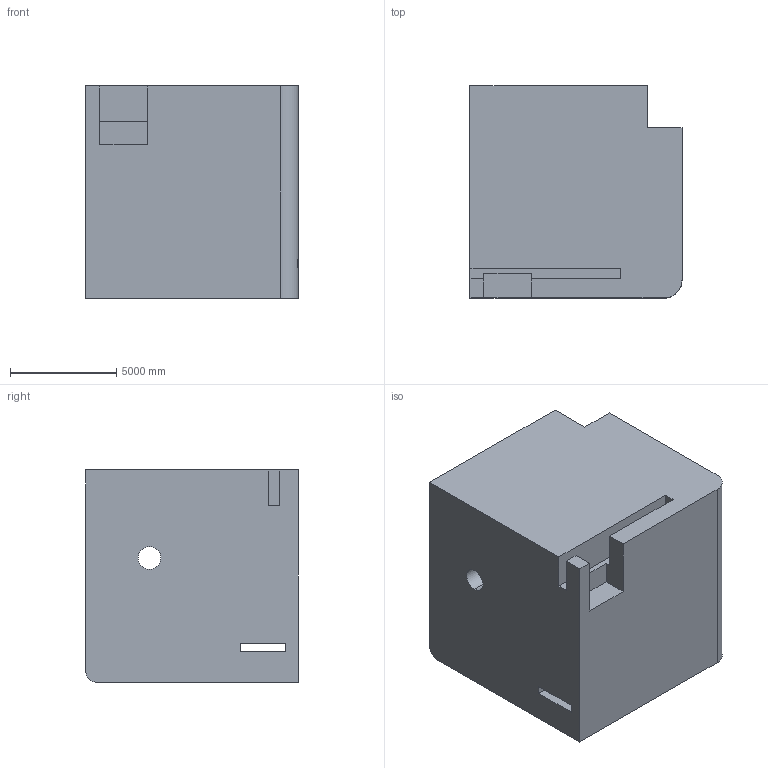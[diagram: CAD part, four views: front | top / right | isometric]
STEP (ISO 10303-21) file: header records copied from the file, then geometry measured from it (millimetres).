
FILE_DESCRIPTION (( 'STEP AP203' ), '1' );
FILE_NAME ('75.STEP', '2022-09-02T14:02:18', ( 'user' ), ( '' ), 'SwSTEP 2.0', 'SolidWorks 2021', '' );
FILE_SCHEMA (( 'CONFIG_CONTROL_DESIGN' ));
Length unit declared in the file: centimetre
Products named in the file (1): 75
Bounding box: 10000 x 10000 x 10000 mm (x, y, z)
Volume: 925138510198.1 mm3; surface area: 721740795.3 mm2
Topology: 1 solids, 1 shells, 33 faces, 99 edges, 66 vertices
Faces by surface type: plane 29, cylinder 4
Entity records: 1192 total; most frequent: CARTESIAN_POINT 199, ORIENTED_EDGE 198, DIRECTION 177, EDGE_CURVE 99, VECTOR 89, LINE 89, VERTEX_POINT 66, AXIS2_PLACEMENT_3D 44
